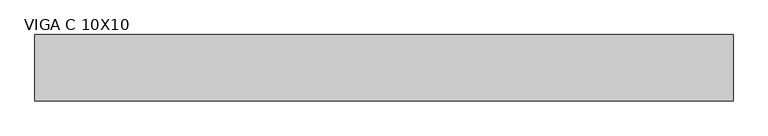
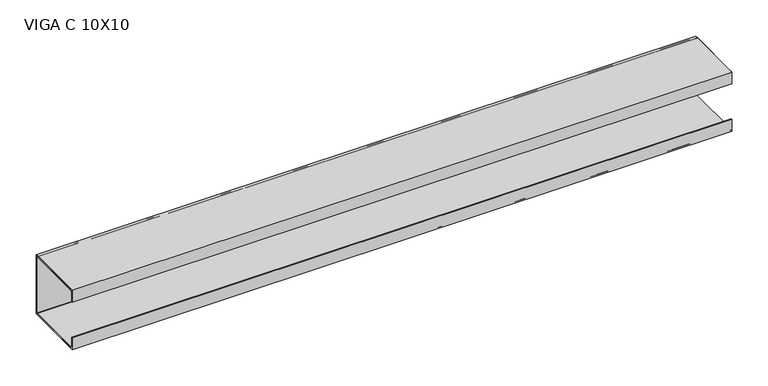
"""IFC4 building model written with IfcOpenShell, lengths in millimetres: beam geometry, VIGA PERFIL C AÇO : VIGA C 10X10."""

from ifc_helpers import new_model, si_unit, point, frame, frame_2d, origin, place, context, project, spatial, polyline, circle_curve, trimmed, segment, composite_curve, outline, extrude, source, transform, mapped, element, save


def viga_c_10x10_fef4f7e0(model_context):
    return source(origin(), model_context, "Body", "SweptSolid", [
        extrude(outline(polyline([(9.2, -50.0), (-90.8, -50.0), (-90.8, -30.0), (-88.9, -30.0), (-88.9, -48.1), (7.3, -48.1), (7.3, 48.1), (-88.9, 48.1), (-88.9, 30.0), (-90.8, 30.0), (-90.8, 50.0), (9.2, 50.0), (9.2, -50.0)])), frame((-528.0, 0.0, 0.0), z_axis=(1.0, 0.0, 0.0), x_axis=(0.0, 1.0, 0.0)), (0.0, 0.0, 1.0), 1054.0),
        extrude(outline(composite_curve([segment(trimmed(circle_curve(frame_2d((5.4, -46.2)), 3.8), [point((9.2, -46.2))], [point((5.4, -50.0))], False, "CARTESIAN"), True, "CONTINUOUS"), segment(polyline([(5.4, -50.0), (-87.0, -50.0)]), True, "CONTINUOUS"), segment(trimmed(circle_curve(frame_2d((-87.0, -46.2)), 3.8), [point((-87.0, -50.0))], [point((-90.8, -46.2))], False, "CARTESIAN"), True, "CONTINUOUS"), segment(polyline([(-90.8, -46.2), (-90.8, -30.0), (-88.9, -30.0), (-88.9, -46.2)]), True, "CONTINUOUS"), segment(trimmed(circle_curve(frame_2d((-87.0, -46.2)), 1.9), [point((-88.9, -46.2))], [point((-87.0, -48.1))], True, "CARTESIAN"), True, "CONTINUOUS"), segment(polyline([(-87.0, -48.1), (5.4, -48.1)]), True, "CONTINUOUS"), segment(trimmed(circle_curve(frame_2d((5.4, -46.2)), 1.9), [point((5.4, -48.1))], [point((7.3, -46.2))], True, "CARTESIAN"), True, "CONTINUOUS"), segment(polyline([(7.3, -46.2), (7.3, 46.2)]), True, "CONTINUOUS"), segment(trimmed(circle_curve(frame_2d((5.4, 46.2)), 1.9), [point((7.3, 46.2))], [point((5.4, 48.1))], True, "CARTESIAN"), True, "CONTINUOUS"), segment(polyline([(5.4, 48.1), (-87.0, 48.1)]), True, "CONTINUOUS"), segment(trimmed(circle_curve(frame_2d((-87.0, 46.2)), 1.9), [point((-87.0, 48.1))], [point((-88.9, 46.2))], True, "CARTESIAN"), True, "CONTINUOUS"), segment(polyline([(-88.9, 46.2), (-88.9, 30.0), (-90.8, 30.0), (-90.8, 46.2)]), True, "CONTINUOUS"), segment(trimmed(circle_curve(frame_2d((-87.0, 46.2)), 3.8), [point((-90.8, 46.2))], [point((-87.0, 50.0))], False, "CARTESIAN"), True, "CONTINUOUS"), segment(polyline([(-87.0, 50.0), (5.4, 50.0)]), True, "CONTINUOUS"), segment(trimmed(circle_curve(frame_2d((5.4, 46.2)), 3.8), [point((5.4, 50.0))], [point((9.2, 46.2))], False, "CARTESIAN"), True, "CONTINUOUS"), segment(polyline([(9.2, 46.2), (9.2, -46.2)]), True, "CONTINUOUS")], self_intersect=False)), frame((-528.0, 0.0, 0.0), z_axis=(1.0, 0.0, 0.0), x_axis=(0.0, 1.0, 0.0)), (0.0, 0.0, 1.0), 1054.0),
    ])


if __name__ == "__main__":
    model = new_model("IFC4")
    model_context = context("Model", 3, world=origin())
    ifc_project = project(units=[si_unit("LENGTHUNIT", "METRE", prefix="MILLI")], contexts=[model_context])
    site = spatial("IfcSite", under=ifc_project)
    building = spatial("IfcBuilding", under=site)
    placement = place(None, origin())
    viga_c_10x10_shape = viga_c_10x10_fef4f7e0(model_context)
    element("IfcBeam", 1, ObjectType="VIGA PERFIL C AÇO : VIGA C 10X10", at=placement, inside=building, context=model_context, shape_type="MappedRepresentation", body=[
        mapped(viga_c_10x10_shape, transform((0.0, 0.0, 0.0), x_axis=(1.0, 0.0, 0.0), y_axis=(0.0, 1.0, 0.0), z_axis=(0.0, 0.0, 1.0))),
    ])
    save(model, "model.ifc")
